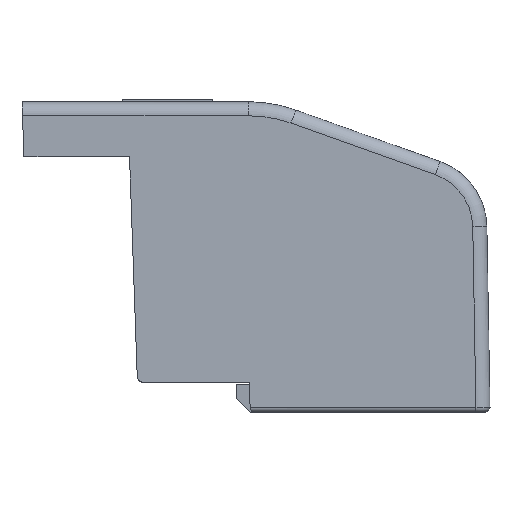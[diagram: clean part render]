
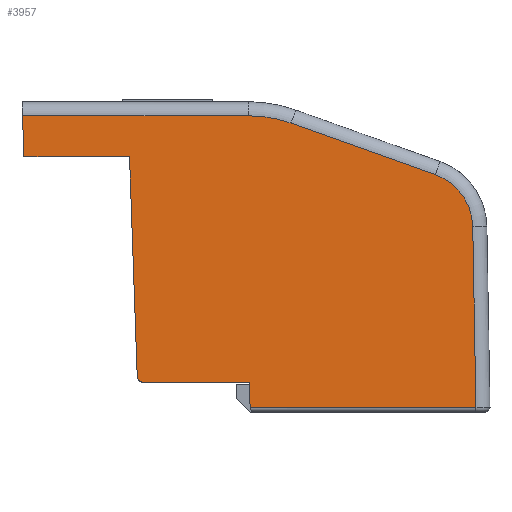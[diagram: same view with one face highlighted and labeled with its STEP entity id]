
A CAD part, front view. The second image highlights one B-rep face of the part: STEP entity #3957.
In plain terms, the highlighted planar face has unit normal (0, -1, 0.018) as drawn and (0, 0.017, 1) by its records, which use the part's own axes.
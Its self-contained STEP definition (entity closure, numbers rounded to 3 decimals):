
#145=DIRECTION('',(1.,0.,0.));
#146=VECTOR('',#145,16.006);
#147=CARTESIAN_POINT('',(49.488,0.35,19.444));
#148=LINE('',#147,#146);
#433=DIRECTION('',(-0.035,0.999,-0.017));
#434=VECTOR('',#433,1.751);
#435=CARTESIAN_POINT('',(49.488,0.35,19.444));
#436=LINE('',#435,#434);
#437=CARTESIAN_POINT('',(49.368,12.02,19.24));
#438=DIRECTION('',(0.,-0.017,-1.));
#439=DIRECTION('',(0.,1.,-0.017));
#440=AXIS2_PLACEMENT_3D('',#437,#438,#439);
#442=DIRECTION('',(0.942,-0.336,0.006));
#443=VECTOR('',#442,10.854);
#444=CARTESIAN_POINT('',(52.395,20.493,19.092));
#445=LINE('',#444,#443);
#446=CARTESIAN_POINT('',(61.271,13.076,19.222));
#447=DIRECTION('',(0.,-0.017,-1.));
#448=DIRECTION('',(0.336,0.942,-0.016));
#449=AXIS2_PLACEMENT_3D('',#446,#447,#448);
#451=DIRECTION('',(0.017,-1.,0.017));
#452=VECTOR('',#451,12.799);
#453=CARTESIAN_POINT('',(65.271,13.145,19.221));
#454=LINE('',#453,#452);
#455=DIRECTION('',(1.,0.,0.));
#456=VECTOR('',#455,7.447);
#457=CARTESIAN_POINT('',(41.979,2.1,19.413));
#458=LINE('',#457,#456);
#459=CARTESIAN_POINT('',(41.48,2.583,19.405));
#460=CARTESIAN_POINT('',(41.481,2.53,19.406));
#461=CARTESIAN_POINT('',(41.501,2.43,19.408));
#462=CARTESIAN_POINT('',(41.575,2.293,19.41));
#463=CARTESIAN_POINT('',(41.686,2.185,19.412));
#464=CARTESIAN_POINT('',(41.827,2.116,19.413));
#465=CARTESIAN_POINT('',(41.927,2.1,19.413));
#466=CARTESIAN_POINT('',(41.979,2.1,19.413));
#738=DIRECTION('',(-1.,0.,0.));
#739=VECTOR('',#738,16.02);
#740=CARTESIAN_POINT('',(49.368,21.017,19.083));
#741=LINE('',#740,#739);
#746=DIRECTION('',(0.035,-0.999,0.017));
#747=VECTOR('',#746,2.92);
#748=CARTESIAN_POINT('',(33.348,21.017,19.083));
#749=LINE('',#748,#747);
#770=DIRECTION('',(1.,0.,0.));
#771=VECTOR('',#770,7.488);
#772=CARTESIAN_POINT('',(33.45,18.1,19.134));
#773=LINE('',#772,#771);
#2648=DIRECTION('',(0.035,-0.999,0.017));
#2649=VECTOR('',#2648,15.529);
#2650=CARTESIAN_POINT('',(40.938,18.1,19.134));
#2651=LINE('',#2650,#2649);
#2797=CARTESIAN_POINT('',(49.488,0.35,19.444));
#2798=VERTEX_POINT('',#2797);
#2799=CARTESIAN_POINT('',(65.494,0.35,19.444));
#2800=VERTEX_POINT('',#2799);
#2839=CARTESIAN_POINT('',(49.427,2.1,19.413));
#2840=VERTEX_POINT('',#2839);
#2903=CARTESIAN_POINT('',(65.271,13.145,19.221));
#2904=VERTEX_POINT('',#2903);
#2905=CARTESIAN_POINT('',(41.979,2.1,19.413));
#2906=VERTEX_POINT('',#2905);
#2907=VERTEX_POINT('',#459);
#2908=CARTESIAN_POINT('',(40.938,18.1,19.134));
#2909=VERTEX_POINT('',#2908);
#2910=CARTESIAN_POINT('',(33.45,18.1,19.134));
#2911=VERTEX_POINT('',#2910);
#2912=CARTESIAN_POINT('',(33.348,21.017,19.083));
#2913=VERTEX_POINT('',#2912);
#2914=CARTESIAN_POINT('',(49.368,21.017,19.083));
#2915=VERTEX_POINT('',#2914);
#2916=CARTESIAN_POINT('',(52.395,20.493,19.092));
#2917=VERTEX_POINT('',#2916);
#2918=CARTESIAN_POINT('',(62.617,16.842,19.156));
#2919=VERTEX_POINT('',#2918);
#3929=CARTESIAN_POINT('',(67.135,-0.001,
19.45));
#3930=DIRECTION('',(0.,-0.017,-1.));
#3931=DIRECTION('',(1.,0.,0.));
#3932=AXIS2_PLACEMENT_3D('',#3929,#3930,#3931);
#3933=PLANE('',#3932);
#3934=ORIENTED_EDGE('',*,*,#3572,.F.);
#3935=ORIENTED_EDGE('',*,*,#3688,.T.);
#3937=ORIENTED_EDGE('',*,*,#3936,.F.);
#3939=ORIENTED_EDGE('',*,*,#3938,.F.);
#3941=ORIENTED_EDGE('',*,*,#3940,.F.);
#3943=ORIENTED_EDGE('',*,*,#3942,.F.);
#3945=ORIENTED_EDGE('',*,*,#3944,.F.);
#3947=ORIENTED_EDGE('',*,*,#3946,.F.);
#3949=ORIENTED_EDGE('',*,*,#3948,.T.);
#3951=ORIENTED_EDGE('',*,*,#3950,.T.);
#3953=ORIENTED_EDGE('',*,*,#3952,.T.);
#3954=ORIENTED_EDGE('',*,*,#3921,.T.);
#3955=EDGE_LOOP('',(#3934,#3935,#3937,#3939,#3941,#3943,#3945,#3947,#3949,#3951,
#3953,#3954));
#3956=FACE_OUTER_BOUND('',#3955,.F.);
#441=CIRCLE('',#440,8.999);
#450=CIRCLE('',#449,4.001);
#467=B_SPLINE_CURVE_WITH_KNOTS('',3,(#459,#460,#461,#462,#463,#464,#465,#466),
.UNSPECIFIED.,.F.,.F.,(4,1,1,1,1,4),(0.,0.2,0.4,0.6,0.8,1.),
.UNSPECIFIED.);
#3572=EDGE_CURVE('',#2798,#2800,#148,.T.);
#3688=EDGE_CURVE('',#2798,#2840,#436,.T.);
#3921=EDGE_CURVE('',#2904,#2800,#454,.T.);
#3936=EDGE_CURVE('',#2906,#2840,#458,.T.);
#3938=EDGE_CURVE('',#2907,#2906,#467,.T.);
#3940=EDGE_CURVE('',#2909,#2907,#2651,.T.);
#3942=EDGE_CURVE('',#2911,#2909,#773,.T.);
#3944=EDGE_CURVE('',#2913,#2911,#749,.T.);
#3946=EDGE_CURVE('',#2915,#2913,#741,.T.);
#3948=EDGE_CURVE('',#2915,#2917,#441,.T.);
#3950=EDGE_CURVE('',#2917,#2919,#445,.T.);
#3952=EDGE_CURVE('',#2919,#2904,#450,.T.);
#3957=ADVANCED_FACE('',(#3956),#3933,.F.);
